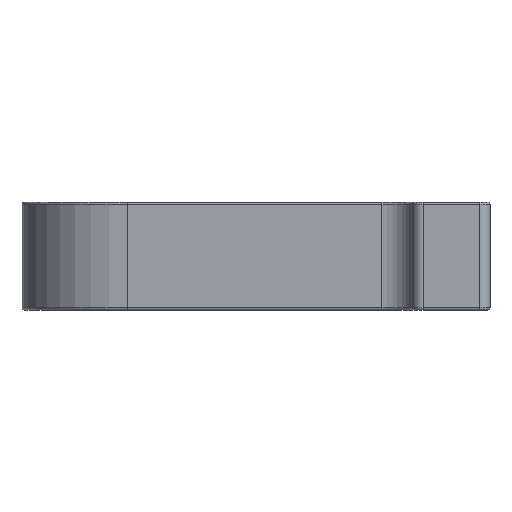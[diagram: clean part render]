
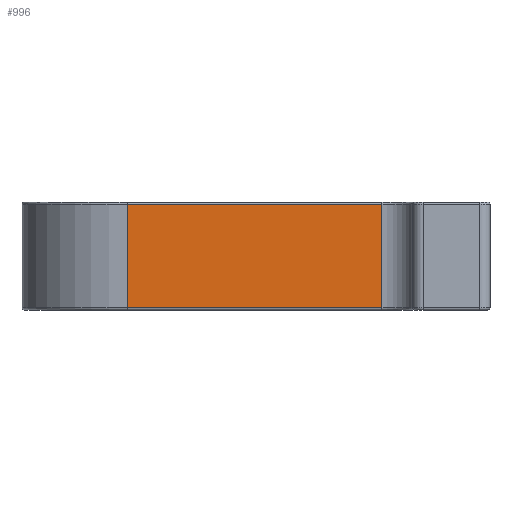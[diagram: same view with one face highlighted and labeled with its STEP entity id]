
A CAD part, left-side view. The second image highlights one B-rep face of the part: STEP entity #996.
In plain terms, the highlighted planar face has unit normal (-1, 0, 0).
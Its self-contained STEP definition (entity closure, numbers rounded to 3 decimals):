
#127 = DIRECTION ( 'NONE',  ( 0., 0., -1. ) ) ;
#163 = VERTEX_POINT ( 'NONE', #825 ) ;
#185 = DIRECTION ( 'NONE',  ( 1., 0., 0. ) ) ;
#347 = VERTEX_POINT ( 'NONE', #2044 ) ;
#351 = CARTESIAN_POINT ( 'NONE',  ( 34.5, 55.5, 21. ) ) ;
#361 = DIRECTION ( 'NONE',  ( 0., -1., 0. ) ) ;
#435 = CARTESIAN_POINT ( 'NONE',  ( 34.5, 55.5, 20.6 ) ) ;
#499 = CARTESIAN_POINT ( 'NONE',  ( 34.5, 6., 0.4 ) ) ;
#825 = CARTESIAN_POINT ( 'NONE',  ( 34.5, 55.5, 0.4 ) ) ;
#838 = PLANE ( 'NONE',  #2941 ) ;
#996 = ADVANCED_FACE ( 'NONE', ( #2419 ), #838, .F. ) ;
#1030 = CARTESIAN_POINT ( 'NONE',  ( 34.5, 6., 0.4 ) ) ;
#1107 = EDGE_LOOP ( 'NONE', ( #1513, #1465, #1360, #2680 ) ) ;
#1231 = VERTEX_POINT ( 'NONE', #499 ) ;
#1240 = VECTOR ( 'NONE', #1329, 1000. ) ;
#1248 = LINE ( 'NONE', #2855, #1240 ) ;
#1267 = DIRECTION ( 'NONE',  ( 0., 0., -1. ) ) ;
#1279 = VECTOR ( 'NONE', #1267, 1000. ) ;
#1329 = DIRECTION ( 'NONE',  ( 0., 1., 0. ) ) ;
#1338 = VECTOR ( 'NONE', #361, 1000. ) ;
#1341 = LINE ( 'NONE', #1030, #1338 ) ;
#1360 = ORIENTED_EDGE ( 'NONE', *, *, #1674, .F. ) ;
#1362 = VECTOR ( 'NONE', #127, 1000. ) ;
#1369 = LINE ( 'NONE', #351, #1362 ) ;
#1393 = LINE ( 'NONE', #1706, #1279 ) ;
#1465 = ORIENTED_EDGE ( 'NONE', *, *, #1667, .T. ) ;
#1513 = ORIENTED_EDGE ( 'NONE', *, *, #1632, .T. ) ;
#1632 = EDGE_CURVE ( 'NONE', #2021, #163, #1369, .T. ) ;
#1667 = EDGE_CURVE ( 'NONE', #163, #1231, #1341, .T. ) ;
#1674 = EDGE_CURVE ( 'NONE', #347, #1231, #1393, .T. ) ;
#1694 = EDGE_CURVE ( 'NONE', #347, #2021, #1248, .T. ) ;
#1706 = CARTESIAN_POINT ( 'NONE',  ( 34.5, 6., 21. ) ) ;
#1748 = DIRECTION ( 'NONE',  ( 0., 0., -1. ) ) ;
#2021 = VERTEX_POINT ( 'NONE', #435 ) ;
#2044 = CARTESIAN_POINT ( 'NONE',  ( 34.5, 6., 20.6 ) ) ;
#2167 = CARTESIAN_POINT ( 'NONE',  ( 34.5, 6., 21. ) ) ;
#2419 = FACE_OUTER_BOUND ( 'NONE', #1107, .T. ) ;
#2680 = ORIENTED_EDGE ( 'NONE', *, *, #1694, .T. ) ;
#2855 = CARTESIAN_POINT ( 'NONE',  ( 34.5, 6., 20.6 ) ) ;
#2941 = AXIS2_PLACEMENT_3D ( 'NONE', #2167, #185, #1748 ) ;
